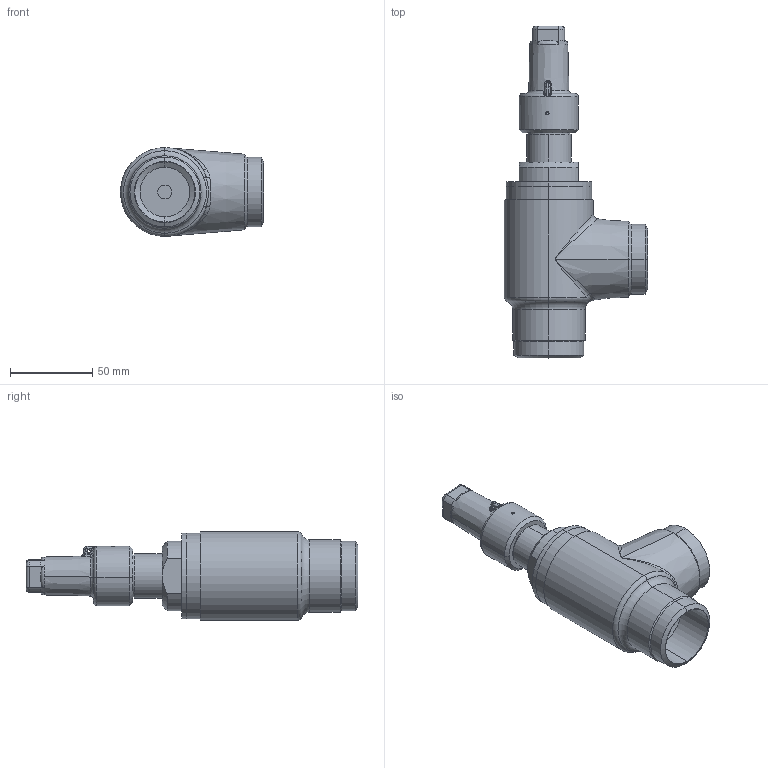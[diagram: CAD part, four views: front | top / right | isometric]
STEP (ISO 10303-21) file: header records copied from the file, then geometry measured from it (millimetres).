
FILE_DESCRIPTION (( 'STEP AP214' ), '1' );
FILE_NAME ('UVAB 41400c13-DN32_R1 .STEP', '2010-09-13T05:57:31', ( 'Eckhard Grams' ), ( 'AWP Kälte Klima Armaturen GmbH' ), 'SwSTEP 2.0', 'SolidWorks 2002296', '' );
FILE_SCHEMA (( 'AUTOMOTIVE_DESIGN' ));
Length unit declared in the file: millimetre
Products named in the file (4): UVAB 41400c13-DN32_R1  ; Gehäuse41200E13-DN32_PS40_R1_Standard; Deckel 44353-11-DN20-32_PS40_Standard; Kappe 36302-10_DN6-15 (M27x1)_Standard
Assembly tree (3 placements, depth 2):
  UVAB 41400c13-DN32_R1  
    Deckel 44353-11-DN20-32_PS40_Standard
    Kappe 36302-10_DN6-15 (M27x1)_Standard
    Gehäuse41200E13-DN32_PS40_R1_Standard
Bounding box: 87 x 201.75 x 54 mm (x, y, z)
Volume: 173533.9 mm3; surface area: 61946 mm2
Topology: 3 solids, 3 shells, 193 faces, 430 edges, 256 vertices
Faces by surface type: cylinder 77, plane 39, cone 34, torus 28, bspline 15
Entity records: 22118 total; most frequent: CARTESIAN_POINT 17062, DIRECTION 955, ORIENTED_EDGE 860, EDGE_CURVE 430, AXIS2_PLACEMENT_3D 410, VERTEX_POINT 256, CIRCLE 226, EDGE_LOOP 216
